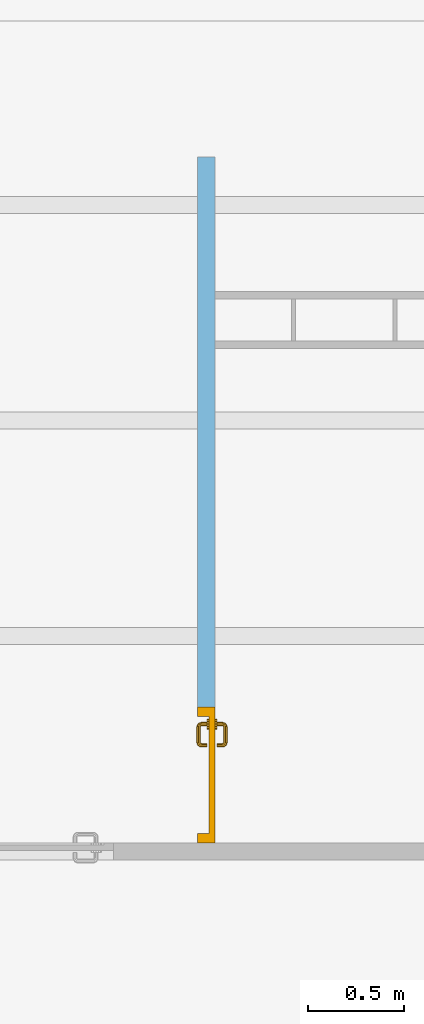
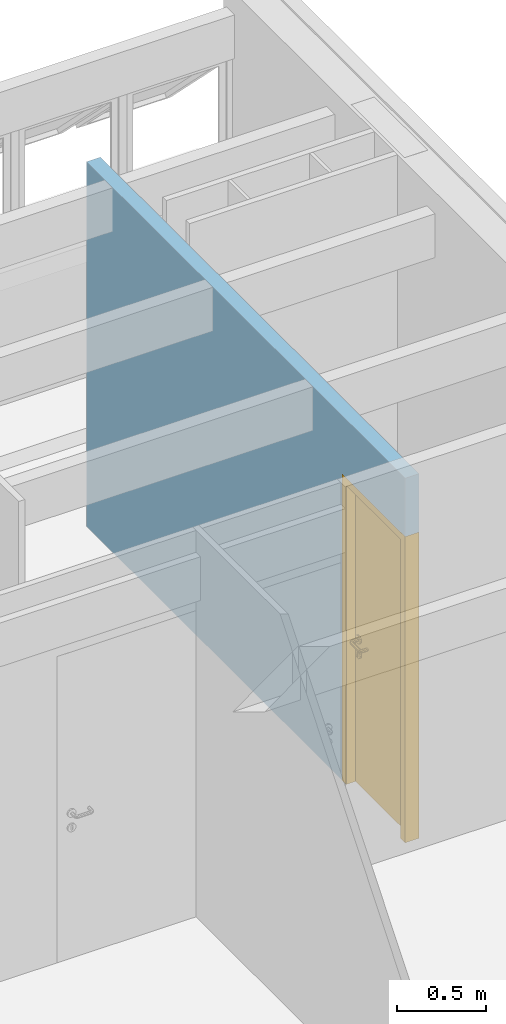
# One storey, part 7 of 22: 1 door, 1 opening, plus 1 element that does not belong to this part.
"""IFC2X3 building model written with IfcOpenShell, lengths in millimetres."""

import ifcopenshell
import ifcopenshell.guid

model = None  # the IFC model being written
_history = None  # IfcOwnerHistory: only IFC2X3 demands one
_inside = {}  # id of a spatial element -> (the spatial element, [elements in it])
_under = {}  # id of a project, library or spatial element -> (it, [spatial elements below it])
_declared = {}  # id of a project -> (the project, [libraries it declares])
_typed = {}  # id of a type object -> (the type object, [elements of that type])
_made_of = {}  # id of a material, layer set ... -> (it, [elements and type objects made of it])


def new_model(schema):
    """Start an empty IFC model of exactly this schema.

    Asked for "IFC4X3", IfcOpenShell would pick the latest addendum, in which some entities
    have other attributes; the version numbers below select the first issue.
    IFC2X3 requires an IfcOwnerHistory on every rooted entity: one is made here for all.
    """
    global model, _history
    if schema == "IFC4X3":
        model = ifcopenshell.file(schema_version=(4, 3, 0, 0))
    else:
        model = ifcopenshell.file(schema=schema)
    _inside.clear()
    _under.clear()
    _declared.clear()
    _typed.clear()
    _made_of.clear()
    _history = None
    if model.schema == "IFC2X3":
        org = make("IfcOrganization", Name="unknown")
        user = make(
            "IfcPersonAndOrganization",
            ThePerson=make("IfcPerson", FamilyName="unknown"),
            TheOrganization=org,
        )
        app = make(
            "IfcApplication",
            ApplicationDeveloper=org,
            Version="unknown",
            ApplicationFullName="unknown",
            ApplicationIdentifier="unknown",
        )
        _history = make(
            "IfcOwnerHistory",
            OwningUser=user,
            OwningApplication=app,
            ChangeAction="ADDED",
            CreationDate=0,
        )
    return model


def make(cls, **values):
    """One entity of the class cls with the attributes given. An attribute that is None is left unset."""
    return model.create_entity(
        cls, **{name: value for name, value in values.items() if value is not None}
    )


def rooted(cls, **values):
    """An entity with a GlobalId (a new one), such as an element, a storey or a relation."""
    return make(cls, GlobalId=ifcopenshell.guid.new(), OwnerHistory=_history, **values)


def si_unit(unit_type, name, prefix=None):
    """IfcSIUnit, for example si_unit("LENGTHUNIT", "METRE", prefix="MILLI")."""
    return make("IfcSIUnit", UnitType=unit_type, Prefix=prefix, Name=name)


def assignment(units):
    """IfcUnitAssignment: the units of a project."""
    return None if units is None else make("IfcUnitAssignment", Units=units)


def point(xyz):
    """IfcCartesianPoint."""
    return None if xyz is None else make("IfcCartesianPoint", Coordinates=xyz)


def direction(xyz):
    """IfcDirection."""
    return None if xyz is None else make("IfcDirection", DirectionRatios=xyz)


def frame(location, z_axis=None, x_axis=None):
    """IfcAxis2Placement3D, a coordinate frame: its origin and axes. An axis left out is left unset."""
    return make(
        "IfcAxis2Placement3D",
        Location=point(location),
        Axis=direction(z_axis),
        RefDirection=direction(x_axis),
    )


def frame_2d(location, x_axis=None):
    """IfcAxis2Placement2D, a coordinate frame in the plane: its origin and x axis."""
    return make(
        "IfcAxis2Placement2D", Location=point(location), RefDirection=direction(x_axis)
    )


def origin_with_axes():
    """The frame at (0, 0, 0) with the z axis (0, 0, 1) and the x axis (1, 0, 0) written out."""
    return frame((0.0, 0.0, 0.0), z_axis=(0.0, 0.0, 1.0), x_axis=(1.0, 0.0, 0.0))


def place(relative_to, where):
    """IfcLocalPlacement: puts the frame where relative to a parent placement (None: the world)."""
    return make(
        "IfcLocalPlacement", PlacementRelTo=relative_to, RelativePlacement=where
    )


def context(
    kind, dimensions, precision=None, world=None, true_north=None, identifier=None
):
    """IfcGeometricRepresentationContext, for example the 3D "Model" context."""
    return make(
        "IfcGeometricRepresentationContext",
        ContextIdentifier=identifier,
        ContextType=kind,
        CoordinateSpaceDimension=dimensions,
        Precision=precision,
        WorldCoordinateSystem=world,
        TrueNorth=true_north,
    )


def subcontext(parent, identifier, kind, view, scale=None):
    """IfcGeometricRepresentationSubContext, for example "Body" below "Model"."""
    return make(
        "IfcGeometricRepresentationSubContext",
        ContextIdentifier=identifier,
        ContextType=kind,
        ParentContext=parent,
        TargetScale=scale,
        TargetView=view,
    )


def project(units=None, contexts=None):
    """IfcProject with its units and contexts."""
    return rooted(
        "IfcProject",
        Name="project",
        RepresentationContexts=contexts,
        UnitsInContext=assignment(units),
    )


def spatial(cls, under=None, at=None, **own):
    """A site, building, storey or space (cls), placed at a placement, below another one or the project."""
    s = rooted(cls, ObjectPlacement=at, **own)
    if under is not None:
        _under.setdefault(under.id(), (under, []))[1].append(s)
    return s


def polyline(points):
    """IfcPolyline through the points."""
    return make("IfcPolyline", Points=[point(p) for p in points])


def profile(cls, at=None, kind="AREA", **sizes):
    """A parametric profile (cls). Its sizes go by their IFC names, for example OverallWidth=200.0."""
    return make(cls, ProfileType=kind, Position=at, **sizes)


def rectangle(**sizes):
    """IfcRectangleProfileDef."""
    return profile("IfcRectangleProfileDef", **sizes)


def outline(outer, holes=None, kind="AREA"):
    """IfcArbitraryClosedProfileDef: a profile drawn as a closed curve; with holes, ...WithVoids."""
    if holes is None:
        return make("IfcArbitraryClosedProfileDef", ProfileType=kind, OuterCurve=outer)
    return make(
        "IfcArbitraryProfileDefWithVoids",
        ProfileType=kind,
        OuterCurve=outer,
        InnerCurves=holes,
    )


def extrude(swept, where, along, depth):
    """IfcExtrudedAreaSolid: the profile swept, set in the frame where, extruded along a direction by depth."""
    return make(
        "IfcExtrudedAreaSolid",
        SweptArea=swept,
        Position=where,
        ExtrudedDirection=direction(along),
        Depth=depth,
    )


def faces_of(points, faces, orient=None, outer=None):
    """IfcFace entities. A face is a list of loops; a loop is a list of indices into points, from 0.

    orient and outer hold one flag for each loop. By default every Orientation is true, the
    first loop of a face is its IfcFaceOuterBound and the others are IfcFaceBound.
    """
    made = []
    for i, loops in enumerate(faces):
        bounds = []
        for j, loop in enumerate(loops):
            is_outer = j == 0 if outer is None else outer[i][j]
            bounds.append(
                make(
                    "IfcFaceOuterBound" if is_outer else "IfcFaceBound",
                    Bound=make("IfcPolyLoop", Polygon=[points[k] for k in loop]),
                    Orientation=True if orient is None else orient[i][j],
                )
            )
        made.append(make("IfcFace", Bounds=bounds))
    return made


def open_shell(faces, orient=None, outer=None):
    """The faces of one IfcOpenShell. surface_model builds it on its shared points."""
    return ("IfcOpenShell", faces, orient, outer)


def faceted_brep(points, faces, orient=None, outer=None, voids=None):
    """IfcFacetedBrep: a solid bounded by flat faces; with voids (closed shells), ...WithVoids."""
    shared = [point(p) for p in points]
    hull = make("IfcClosedShell", CfsFaces=faces_of(shared, faces, orient, outer))
    if voids is None:
        return make("IfcFacetedBrep", Outer=hull)
    return make(
        "IfcFacetedBrepWithVoids",
        Outer=hull,
        Voids=[
            make(cls, CfsFaces=faces_of(shared, fs, o, b)) for cls, fs, o, b in voids
        ],
    )


def surface_model(cls, points, shells):
    """IfcFaceBasedSurfaceModel or IfcShellBasedSurfaceModel (cls): surfaces that need not close."""
    shared = [point(p) for p in points]
    made = [make(c, CfsFaces=faces_of(shared, fs, o, b)) for c, fs, o, b in shells]
    if cls == "IfcFaceBasedSurfaceModel":
        return make(cls, FbsmFaces=made)
    return make(cls, SbsmBoundary=made)


def shape(context_of_items, identifier, shape_type, items):
    """IfcShapeRepresentation: the items that make up one representation, for example the "Body"."""
    return make(
        "IfcShapeRepresentation",
        ContextOfItems=context_of_items,
        RepresentationIdentifier=identifier,
        RepresentationType=shape_type,
        Items=items,
    )


def source(mapping_origin, context_of_items, identifier, shape_type, items):
    """IfcRepresentationMap: a shape defined once, which mapped items show again and again."""
    return make(
        "IfcRepresentationMap",
        MappingOrigin=mapping_origin,
        MappedRepresentation=shape(context_of_items, identifier, shape_type, items),
    )


def transform(
    local_origin,
    x_axis=None,
    y_axis=None,
    z_axis=None,
    scale=None,
    scale2=None,
    scale3=None,
    uniform=True,
):
    """IfcCartesianTransformationOperator3D, or its non-uniform kind. x_axis, y_axis, z_axis: its Axis1, 2, 3."""
    if uniform:
        return make(
            "IfcCartesianTransformationOperator3D",
            Axis1=direction(x_axis),
            Axis2=direction(y_axis),
            LocalOrigin=point(local_origin),
            Scale=scale,
            Axis3=direction(z_axis),
        )
    return make(
        "IfcCartesianTransformationOperator3DnonUniform",
        Axis1=direction(x_axis),
        Axis2=direction(y_axis),
        LocalOrigin=point(local_origin),
        Scale=scale,
        Axis3=direction(z_axis),
        Scale2=scale2,
        Scale3=scale3,
    )


def mapped(mapping_source, mapping_target):
    """IfcMappedItem: shows the shape of a source again, moved by a transform."""
    return make(
        "IfcMappedItem", MappingSource=mapping_source, MappingTarget=mapping_target
    )


def material(Name=None, Category=None):
    """IfcMaterial."""
    return make("IfcMaterial", Name=Name, Category=Category)


def layer(
    of_material, thickness, ventilated=None, Name=None, Category=None, Priority=None
):
    """IfcMaterialLayer: one layer of a wall or slab, of a material (None: an air gap)."""
    return make(
        "IfcMaterialLayer",
        Material=of_material,
        LayerThickness=thickness,
        IsVentilated=ventilated,
        Name=Name,
        Category=Category,
        Priority=Priority,
    )


def layer_set(layers, Name=None):
    """IfcMaterialLayerSet."""
    return make("IfcMaterialLayerSet", MaterialLayers=layers, LayerSetName=Name)


def layer_usage(for_layer_set, set_direction, sense, offset, extent=None):
    """IfcMaterialLayerSetUsage: how a layer set lies in its element."""
    return make(
        "IfcMaterialLayerSetUsage",
        ForLayerSet=for_layer_set,
        LayerSetDirection=set_direction,
        DirectionSense=sense,
        OffsetFromReferenceLine=offset,
        ReferenceExtent=extent,
    )


def made_of(thing, what):
    """Note that an element or type object is made of a material, layer set ...; save() writes the relation."""
    if what is not None:
        _made_of.setdefault(what.id(), (what, []))[1].append(thing)
    return thing


def type_object(cls, material=None, **own):
    """A type object (cls), such as IfcWallType, which elements share."""
    return made_of(rooted(cls, **own), material)


def type_shapes(of_type, sources):
    """Give a type object the sources (RepresentationMaps) that its elements show as mapped items."""
    of_type.RepresentationMaps = sources


def element(
    cls,
    number,
    at=None,
    inside=None,
    cuts=None,
    type_object=None,
    material=None,
    context=None,
    identifier="Body",
    shape_type=None,
    held_by="IfcProductDefinitionShape",
    body=None,
    shapes=None,
    **own,
):
    """One element of the class cls, such as IfcWall. Its Tag is "e" and its number.

    at: its placement. inside: the storey or other place that contains it. cuts: it is an
    opening in that element (IfcRelVoidsElement). A single representation is given by context,
    identifier, shape_type and body (its items); several are given by shapes. held_by: the class
    of the entity that holds the representations. save() writes the other relations.
    """
    e = rooted(cls, Tag="e%d" % number, ObjectPlacement=at, **own)
    if body is not None:
        shapes = [shape(context, identifier, shape_type, body)]
    if shapes is not None:
        e.Representation = make(held_by, Representations=shapes)
    if inside is not None:
        _inside.setdefault(inside.id(), (inside, []))[1].append(e)
    if cuts is not None:
        rooted(
            "IfcRelVoidsElement", RelatingBuildingElement=cuts, RelatedOpeningElement=e
        )
    if type_object is not None:
        _typed.setdefault(type_object.id(), (type_object, []))[1].append(e)
    return made_of(e, material)


def fill(opening, filler):
    """IfcRelFillsElement: the door or window that sits in an opening."""
    return rooted(
        "IfcRelFillsElement",
        RelatingOpeningElement=opening,
        RelatedBuildingElement=filler,
    )


def aggregate(whole, parts):
    """IfcRelAggregates: a whole, such as a stair, and the parts it consists of."""
    return rooted("IfcRelAggregates", RelatingObject=whole, RelatedObjects=parts)


def save(model, path):
    """Write the relations noted so far, then the file.

    IfcRelAggregates (storeys below a building ...), IfcRelContainedInSpatialStructure (elements
    in a storey), IfcRelDefinesByType, IfcRelAssociatesMaterial and IfcRelDeclares: one each for
    every whole, place, type object, material and project.
    """
    for whole, parts in _under.values():
        aggregate(whole, parts)
    for where, things in _inside.values():
        rooted(
            "IfcRelContainedInSpatialStructure",
            RelatedElements=things,
            RelatingStructure=where,
        )
    for kind, things in _typed.values():
        rooted("IfcRelDefinesByType", RelatedObjects=things, RelatingType=kind)
    for what, things in _made_of.values():
        rooted("IfcRelAssociatesMaterial", RelatedObjects=things, RelatingMaterial=what)
    for by, libraries in _declared.values():
        rooted("IfcRelDeclares", RelatingContext=by, RelatedDefinitions=libraries)
    model.write(path)


model = new_model("IFC2X3")

# Units and contexts
model_context = context("Model", 3, precision=1e-05, world=origin_with_axes(), true_north=direction((0.0, 1.0)))
body_context = subcontext(model_context, "Body", "Model", "MODEL_VIEW")
ifc_project = project(units=[si_unit("LENGTHUNIT", "METRE", prefix="MILLI"), si_unit("AREAUNIT", "SQUARE_METRE"), si_unit("VOLUMEUNIT", "CUBIC_METRE"), si_unit("PLANEANGLEUNIT", "RADIAN"), si_unit("TIMEUNIT", "SECOND"), si_unit("MASSUNIT", "GRAM")], contexts=[model_context])

# Site, building, storey
site_placement = place(None, origin_with_axes())
site = spatial("IfcSite", under=ifc_project, at=site_placement, Name="Site", CompositionType="ELEMENT")
building_placement = place(site_placement, origin_with_axes())
building = spatial("IfcBuilding", under=site, at=building_placement, Name="Construção", CompositionType="COMPLEX")
storey_placement = place(building_placement, frame((0.0, 0.0, 2650.0), z_axis=(0.0, 0.0, 1.0), x_axis=(1.0, 0.0, 0.0)))
storey = spatial("IfcBuildingStorey", under=building, at=storey_placement, Name="Segundo Pavimento", CompositionType="COMPLEX", Elevation=2650.0)

# Wall, opening, door
ifc_material = material(Name="GENÉRICO - VEDAÇÃO EXTERNA")
ifc_layer = layer(ifc_material, 90.0)
ifc_layer_set = layer_set([ifc_layer], Name="GENÉRICO - VEDAÇÃO EXTERNA 90")
ifc_layer_usage = layer_usage(ifc_layer_set, "AXIS2", "POSITIVE", 0.0)
wall_type = type_object("IfcWallType", Name="GENÉRICO - VEDAÇÃO EXTERNA 90", PredefinedType="STANDARD", material=ifc_layer_set)
wall_placement = place(storey_placement, frame((13040.0, 7345.2195667, 0.0), z_axis=(0.0, 0.0, 1.0), x_axis=(0.0, -1.0, 0.0)))
wall = element("IfcWallStandardCase", 1, at=wall_placement, inside=storey, type_object=wall_type, material=ifc_layer_usage, Name="APTO6-PAREDE-012", context=body_context, shape_type="SweptSolid", body=[
    extrude(rectangle(XDim=3580.0, YDim=90.0, at=frame_2d((0.0, 0.0), x_axis=(-1.0, 0.0))), frame((1790.0, 45.0, 0.0), z_axis=(0.0, 0.0, 1.0), x_axis=(1.0, 0.0, 0.0)), (0.0, 0.0, 1.0), 2500.0),
])
opening_placement = place(wall_placement, frame((3580.0, 90.0, 0.0), z_axis=(0.0, 0.0, 1.0), x_axis=(-1.0, 0.0, 0.0)))
opening = element("IfcOpeningElement", 2, at=opening_placement, cuts=wall, ObjectType="Opening", context=body_context, shape_type="SweptSolid", body=[
    extrude(outline(polyline([(-355.0, -1050.0), (-355.0, 1050.0), (355.0, 1050.0), (355.0, -1050.0), (-355.0, -1050.0)])), frame((355.0, 0.0, 1050.0), z_axis=(0.0, 1.0, 0.0), x_axis=(1.0, 0.0, 0.0)), (0.0, 0.0, 1.0), 270.0),
])
door_style = type_object("IfcDoorStyle", Name="Porta 25", ConstructionType="NOTDEFINED", OperationType="SINGLE_SWING_RIGHT", ParameterTakesPrecedence=False, Sizeable=False)
shared_shape_1 = source(origin_with_axes(), body_context, "Body", "SolidModel", [
    extrude(outline(polyline([(-10.0, -10.0), (-20.0, -10.0), (-20.0, 50.0), (30.0, 50.0), (30.0, -40.0), (-10.0, -40.0), (-10.0, -10.0)])), frame((680.0, 0.0, -40.0), z_axis=(0.0, 1.0, 0.0), x_axis=(1.0, 0.0, 0.0)), (0.0, 0.0, 1.0), 2050.0),
])
shared_shape_2 = source(origin_with_axes(), body_context, "Body", "SolidModel", [
    extrude(outline(polyline([(10.0, -10.0), (10.0, -40.0), (-30.0, -40.0), (-30.0, 50.0), (20.0, 50.0), (20.0, -10.0), (10.0, -10.0)])), frame((30.0, 0.0, -40.0), z_axis=(0.0, 1.0, 0.0), x_axis=(1.0, 0.0, 0.0)), (0.0, 0.0, 1.0), 2050.0),
])
shared_shape_3 = source(origin_with_axes(), body_context, "Body", "SolidModel", [
    faceted_brep([(39.99999999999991, 2050.0, -29.99999999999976), (670.0, 2050.0, -30.0), (670.0, 2060.0, -30.0), (39.99999999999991, 2060.0, -29.99999999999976), (710.0, 2050.0, -90.0), (0.0, 2050.0, -90.0), (0.0, 2100.0, -90.0), (710.0, 2100.0, -90.0), (670.0, 2060.0, 0.0), (39.99999999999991, 2060.0, 0.0), (39.99999999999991, 2050.0, 0.0), (0.0, 2100.0, 0.0), (0.0, 2050.0, 0.0), (710.0, 2100.0, 0.0), (710.0, 2050.0, 0.0), (670.0, 2050.0, 0.0)], [[[0, 1, 2, 3]], [[4, 5, 6, 7]], [[8, 9, 3, 2]], [[9, 10, 0, 3]], [[11, 6, 5, 12]], [[13, 7, 6, 11]], [[14, 4, 7, 13]], [[1, 0, 10, 12, 5, 4, 14, 15]], [[15, 8, 2, 1]], [[8, 15, 14, 13, 11, 12, 10, 9]]]),
])
shared_shape_4 = source(origin_with_axes(), body_context, "Body", "SolidModel", [
    extrude(outline(polyline([(0.0, 27.00000000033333), (13.49999999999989, 23.38268590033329), (23.38268590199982, 13.50000000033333), (26.99999999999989, 3.333298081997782e-10), (23.38268590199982, -13.49999999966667), (13.49999999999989, -23.38268590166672), (0.0, -26.99999999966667), (-13.50000000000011, -23.38268590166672), (-23.38268590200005, -13.49999999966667), (-27.0, 3.333298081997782e-10), (-23.38268590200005, 13.50000000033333), (-13.50000000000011, 23.38268590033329), (0.0, 27.00000000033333)])), frame((620.0, 999.9999999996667, -40.0), z_axis=(0.0, 0.0, 1.0), x_axis=(1.0, 0.0, 0.0)), (0.0, 0.0, 1.0), 10.0),
])
shared_shape_5 = source(origin_with_axes(), body_context, "Body", "SolidModel", [
    faceted_brep([(642.516660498, 913.0, -39.0), (646.0, 900.0, -39.0), (646.0, 900.0, -30.0), (642.516660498, 913.0, -30.0), (642.516660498, 887.0, -39.0), (642.516660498, 887.0, -30.0), (633.0, 922.516660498, -39.0), (633.0, 922.516660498, -30.0), (647.0, 900.0, -40.0), (647.0, 900.0, -30.0), (643.382685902, 886.5, -30.0), (643.382685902, 886.5, -40.0), (597.483339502, 913.0, -30.0), (607.0, 922.516660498, -30.0), (620.0, 926.0, -30.0), (633.0, 877.483339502, -30.0), (620.0, 874.0, -30.0), (607.0, 877.483339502, -30.0), (597.483339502, 887.0, -30.0), (594.0, 900.0, -30.0), (606.5, 923.382685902, -30.0), (596.617314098, 913.5, -30.0), (593.0, 900.0, -30.0), (596.617314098, 886.5, -30.0), (606.5, 876.617314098, -30.0), (620.0, 873.0, -30.0), (633.5, 876.617314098, -30.0), (643.382685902, 913.5, -30.0), (633.5, 923.382685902, -30.0), (620.0, 927.0, -30.0), (643.382685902, 913.5, -40.0), (633.5, 923.382685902, -40.0), (620.0, 926.0, -39.0), (633.0, 877.483339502, -39.0), (633.5, 876.617314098, -40.0), (607.0, 922.516660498, -39.0), (606.5, 876.617314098, -40.0), (596.617314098, 886.5, -40.0), (620.0, 873.0, -40.0), (620.0, 927.0, -40.0), (594.0, 900.0, -39.0), (597.483339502, 913.0, -39.0), (620.0, 882.5, -40.0), (620.0, 882.5, -39.0), (623.535533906, 883.964466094, -39.0), (623.535533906, 883.964466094, -40.0), (625.0, 887.5, -39.0), (625.0, 887.5, -40.0), (593.0, 900.0, -40.0), (620.0, 874.0, -39.0), (607.0, 877.483339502, -39.0), (597.483339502, 887.0, -39.0), (627.467830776, 909.692280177, -40.0), (625.0, 904.4, -40.0), (625.0, 904.4, -39.0), (627.467830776, 909.692280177, -39.0), (625.3751823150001, 915.143815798, -40.0), (626.720245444, 911.639806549, -40.0), (626.720245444, 911.639806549, -39.0), (625.3751823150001, 915.143815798, -39.0), (616.464466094, 883.964466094, -40.0), (616.464466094, 883.964466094, -39.0), (606.5, 923.382685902, -40.0), (596.617314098, 913.5, -40.0), (614.6248176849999, 915.143815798, -39.0), (620.0, 917.425445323, -39.0), (615.0, 887.5, -39.0), (615.0, 904.4, -39.0), (612.532169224, 909.692280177, -39.0), (613.279754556, 911.639806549, -39.0), (620.0, 917.425445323, -40.0), (614.6248176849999, 915.143815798, -40.0), (615.0, 887.5, -40.0), (612.532169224, 909.692280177, -40.0), (613.279754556, 911.639806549, -40.0), (615.0, 904.4, -40.0)], [[[0, 1, 2, 3]], [[1, 4, 5, 2]], [[6, 0, 3, 7]], [[8, 9, 10, 11]], [[12, 13, 14, 7, 3, 2, 5, 15, 16, 17, 18, 19], [20, 21, 22, 23, 24, 25, 26, 10, 9, 27, 28, 29]], [[30, 27, 9, 8]], [[31, 28, 27, 30]], [[32, 6, 7, 14]], [[4, 33, 15, 5]], [[11, 10, 26, 34]], [[35, 32, 14, 13]], [[36, 24, 23, 37]], [[38, 25, 24, 36]], [[34, 26, 25, 38]], [[39, 29, 28, 31]], [[40, 41, 12, 19]], [[42, 43, 44, 45]], [[45, 44, 46, 47]], [[37, 23, 22, 48]], [[33, 49, 16, 15]], [[49, 50, 17, 16]], [[51, 40, 19, 18]], [[50, 51, 18, 17]], [[52, 53, 54, 55]], [[54, 53, 47, 46]], [[41, 35, 13, 12]], [[56, 57, 52, 55, 58, 59]], [[60, 61, 43, 42]], [[62, 20, 29, 39]], [[63, 21, 20, 62]], [[40, 51, 50, 49, 33, 4, 1, 0, 6, 32, 35, 41], [64, 65, 59, 58, 55, 54, 46, 44, 43, 61, 66, 67, 68, 69]], [[70, 56, 59, 65]], [[71, 70, 65, 64]], [[48, 22, 21, 63]], [[72, 66, 61, 60]], [[73, 74, 71, 64, 69, 68]], [[75, 67, 66, 72]], [[75, 73, 68, 67]], [[36, 37, 48, 63, 62, 39, 31, 30, 8, 11, 34, 38], [73, 75, 72, 60, 42, 45, 47, 53, 52, 57, 56, 70, 71, 74]]], outer=[[True], [True], [True], [True], [False, True], [True], [True], [True], [True], [True], [True], [True], [True], [True], [True], [True], [True], [True], [True], [True], [True], [True], [True], [True], [True], [True], [True], [True], [True], [True], [True, False], [True], [True], [True], [True], [True], [True], [True], [True, False]]),
])
shared_shape_6 = source(origin_with_axes(), body_context, "Body", "SurfaceModel", [
    surface_model("IfcShellBasedSurfaceModel", [(517.071067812, 1007.07106781, -69.303560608), (510.0, 1010.0, -70.0), (510.0, 1010.0, -40.0), (517.071067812, 1007.07106781, -40.0), (520.0, 1000.0, -69.0150859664), (520.0, 1000.0, -40.0), (517.071067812, 992.928932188, -69.303560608), (517.071067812, 992.928932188, -40.0), (502.928932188, 1007.07106781, -70.696439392), (502.928932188, 1007.07106781, -40.0), (500.0, 1000.0, -40.0), (502.928932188, 992.928932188, -40.0), (510.0, 990.0, -40.0), (500.0, 1000.0, -70.9849140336), (510.0, 990.0, -70.0), (517.802607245, 992.928932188, -72.9812576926), (520.5616010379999, 1000.0, -71.83844504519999), (511.141807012, 1010.0, -75.74025148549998), (504.481006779, 1007.07106781, -78.49924527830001), (517.802607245, 1007.07106781, -72.9812576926), (514.393398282, 1010.0, -80.6066017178), (509.295442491, 1007.07106781, -85.70455750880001), (519.491354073, 1007.07106781, -75.5086459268), (522.018742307, 992.928932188, -77.19739275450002), (523.161554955, 1000.0, -74.43839896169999), (521.602996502, 1000.0, -73.39700349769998), (519.491354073, 992.928932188, -75.5086459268), (522.018742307, 1007.07106781, -77.19739275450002), (519.259748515, 1010.0, -83.8581929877), (501.722012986, 1000.0, -79.6420579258), (502.928932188, 992.928932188, -70.696439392), (525.984914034, 1000.0, -75.0), (525.696439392, 1007.07106781, -77.92893218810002), (511.141807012, 990.0, -75.74025148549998), (504.481006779, 992.928932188, -78.49924527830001), (514.393398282, 990.0, -80.6066017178), (509.295442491, 992.928932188, -85.70455750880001), (507.183800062, 1000.0, -87.8161999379), (516.500754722, 992.928932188, -90.51899322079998), (519.259748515, 990.0, -83.8581929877), (525.696439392, 992.928932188, -77.92893218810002), (515.357942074, 1000.0, -93.2779870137), (516.500754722, 1007.07106781, -90.51899322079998), (525.0, 990.0, -85.0), (604.303560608, 992.928932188, -77.92893218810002), (604.015085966, 1000.0, -75.0), (607.981257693, 992.928932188, -77.19739275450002), (606.838445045, 1000.0, -74.43839896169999), (604.303560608, 1007.07106781, -77.92893218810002), (607.981257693, 1007.07106781, -77.19739275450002), (608.397003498, 1000.0, -73.39700349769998), (610.508645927, 1007.07106781, -75.5086459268), (525.0, 1010.0, -85.0), (524.303560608, 1007.07106781, -92.07106781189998), (524.015085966, 1000.0, -95.0), (524.303560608, 992.928932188, -92.07106781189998), (605.0, 990.0, -85.0), (605.0, 1010.0, -85.0), (610.740251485, 1010.0, -83.8581929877), (605.696439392, 1007.07106781, -92.07106781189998), (615.606601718, 1010.0, -80.6066017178), (613.499245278, 1007.07106781, -90.51899322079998), (605.984914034, 1000.0, -95.0), (610.508645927, 992.928932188, -75.5086459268), (609.4383989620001, 1000.0, -71.83844504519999), (612.197392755, 1007.07106781, -72.9812576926), (610.0, 1000.0, -69.0150859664), (612.928932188, 1007.07106781, -69.303560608), (620.0, 1010.0, -70.0), (618.8581929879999, 1010.0, -75.74025148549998), (615.606601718, 990.0, -80.6066017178), (610.740251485, 990.0, -83.8581929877), (612.197392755, 992.928932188, -72.9812576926), (605.696439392, 992.928932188, -92.07106781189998), (620.704557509, 1007.07106781, -85.70455750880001), (614.642057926, 1000.0, -93.2779870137), (613.499245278, 992.928932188, -90.51899322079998), (625.5189932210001, 1007.07106781, -78.49924527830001), (610.0, 1000.0, -40.0), (612.928932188, 1007.07106781, -40.0), (622.816199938, 1000.0, -87.8161999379), (620.704557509, 992.928932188, -85.70455750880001), (625.5189932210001, 992.928932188, -78.49924527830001), (618.8581929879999, 990.0, -75.74025148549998), (628.277987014, 1000.0, -79.6420579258), (620.0, 1010.0, -40.0), (627.071067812, 1007.07106781, -70.696439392), (627.071067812, 1007.07106781, -40.0), (630.0, 1000.0, -70.9849140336), (612.928932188, 992.928932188, -69.303560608), (620.0, 990.0, -70.0), (612.928932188, 992.928932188, -40.0), (627.071067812, 992.928932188, -70.696439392), (620.0, 990.0, -40.0), (630.0, 1000.0, -40.0), (627.071067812, 992.928932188, -40.0)], [open_shell([[[0, 1, 2, 3]], [[4, 0, 3, 5]], [[6, 4, 5, 7]], [[1, 8, 9, 2]], [[10, 11, 12, 7, 5, 3, 2, 9]], [[8, 13, 10, 9]], [[14, 6, 7, 12]], [[15, 16, 4, 6]], [[17, 18, 8, 1]], [[19, 17, 1, 0]], [[20, 21, 18, 17]], [[16, 19, 0, 4]], [[22, 20, 17, 19]], [[23, 24, 25, 26]], [[25, 22, 19, 16]], [[27, 28, 20, 22]], [[18, 29, 13, 8]], [[13, 30, 11, 10]], [[26, 25, 16, 15]], [[24, 27, 22, 25]], [[31, 32, 27, 24]], [[30, 14, 12, 11]], [[33, 15, 6, 14]], [[34, 33, 14, 30]], [[35, 26, 15, 33]], [[29, 34, 30, 13]], [[36, 35, 33, 34]], [[37, 36, 34, 29]], [[38, 39, 35, 36]], [[39, 23, 26, 35]], [[40, 31, 24, 23]], [[21, 37, 29, 18]], [[41, 38, 36, 37]], [[42, 41, 37, 21]], [[43, 40, 23, 39]], [[44, 45, 31, 40]], [[46, 47, 45, 44]], [[45, 48, 32, 31]], [[47, 49, 48, 45]], [[50, 51, 49, 47]], [[32, 52, 28, 27]], [[28, 42, 21, 20]], [[53, 54, 41, 42]], [[55, 43, 39, 38]], [[56, 44, 40, 43]], [[48, 57, 52, 32]], [[52, 53, 42, 28]], [[49, 58, 57, 48]], [[57, 59, 53, 52]], [[51, 60, 58, 49]], [[58, 61, 59, 57]], [[59, 62, 54, 53]], [[54, 55, 38, 41]], [[63, 50, 47, 46]], [[64, 65, 51, 50]], [[66, 67, 65, 64]], [[67, 68, 69, 65]], [[70, 63, 46, 71]], [[72, 64, 50, 63]], [[73, 56, 43, 55]], [[71, 46, 44, 56]], [[65, 69, 60, 51]], [[60, 74, 61, 58]], [[61, 75, 62, 59]], [[62, 73, 55, 54]], [[76, 71, 56, 73]], [[69, 77, 74, 60]], [[78, 79, 67, 66]], [[74, 80, 75, 61]], [[75, 76, 73, 62]], [[81, 70, 71, 76]], [[80, 81, 76, 75]], [[82, 83, 70, 81]], [[84, 82, 81, 80]], [[79, 85, 68, 67]], [[68, 86, 77, 69]], [[77, 84, 80, 74]], [[85, 87, 86, 68]], [[86, 88, 84, 77]], [[83, 72, 63, 70]], [[89, 66, 64, 72]], [[90, 89, 72, 83]], [[91, 78, 66, 89]], [[92, 90, 83, 82]], [[93, 91, 89, 90]], [[87, 94, 88, 86]], [[88, 92, 82, 84]], [[95, 93, 90, 92]], [[94, 95, 92, 88]]])]),
])
shared_shape_7 = source(origin_with_axes(), body_context, "Body", "SolidModel", [
    extrude(outline(polyline([(0.0, 27.00000000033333), (13.49999999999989, 23.38268590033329), (23.38268590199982, 13.50000000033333), (26.99999999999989, 3.333298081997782e-10), (23.38268590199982, -13.49999999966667), (13.49999999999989, -23.38268590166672), (0.0, -26.99999999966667), (-13.50000000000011, -23.38268590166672), (-23.38268590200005, -13.49999999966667), (-27.0, 3.333298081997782e-10), (-23.38268590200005, 13.50000000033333), (-13.50000000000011, 23.38268590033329), (0.0, 27.00000000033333)])), frame((620.0, 999.9999999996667, 0.0), z_axis=(0.0, 0.0, 1.0), x_axis=(1.0, 0.0, 0.0)), (0.0, 0.0, 1.0), 10.0),
])
shared_shape_8 = source(origin_with_axes(), body_context, "Body", "SolidModel", [
    faceted_brep([(643.382685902, 913.5, 0.0), (643.382685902, 913.5, 10.0), (647.0, 900.0, 10.0), (647.0, 900.0, 0.0), (643.382685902, 886.5, 10.0), (643.382685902, 886.5, 0.0), (633.5, 876.617314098, 10.0), (633.5, 876.617314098, 0.0), (646.0, 900.0, 9.0), (646.0, 900.0, 0.0), (642.516660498, 887.0, 0.0), (642.516660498, 887.0, 9.0), (633.0, 877.483339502, 0.0), (633.0, 877.483339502, 9.0), (633.5, 923.382685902, 0.0), (633.5, 923.382685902, 10.0), (642.516660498, 913.0, 9.0), (642.516660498, 913.0, 0.0), (620.0, 927.0, 0.0), (620.0, 927.0, 10.0), (633.0, 922.516660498, 9.0), (633.0, 922.516660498, 0.0), (620.0, 874.0, 0.0), (620.0, 874.0, 9.0), (606.5, 876.617314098, 0.0), (596.617314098, 886.5, 0.0), (593.0, 900.0, 0.0), (596.617314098, 913.5, 0.0), (606.5, 923.382685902, 0.0), (620.0, 873.0, 0.0), (607.0, 922.516660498, 0.0), (597.483339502, 913.0, 0.0), (594.0, 900.0, 0.0), (597.483339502, 887.0, 0.0), (607.0, 877.483339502, 0.0), (620.0, 926.0, 0.0), (620.0, 873.0, 10.0), (606.5, 923.382685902, 10.0), (627.467830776, 909.692280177, 9.0), (625.0, 904.4, 9.0), (625.0, 904.4, 10.0), (627.467830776, 909.692280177, 10.0), (625.3751823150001, 915.143815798, 9.0), (626.720245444, 911.639806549, 9.0), (626.720245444, 911.639806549, 10.0), (625.3751823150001, 915.143815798, 10.0), (597.483339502, 887.0, 9.0), (594.0, 900.0, 9.0), (596.617314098, 886.5, 10.0), (593.0, 900.0, 10.0), (606.5, 876.617314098, 10.0), (625.0, 887.5, 9.0), (625.0, 887.5, 10.0), (623.535533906, 883.964466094, 9.0), (623.535533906, 883.964466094, 10.0), (596.617314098, 913.5, 10.0), (620.0, 926.0, 9.0), (607.0, 877.483339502, 9.0), (620.0, 882.5, 9.0), (620.0, 882.5, 10.0), (616.464466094, 883.964466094, 9.0), (616.464466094, 883.964466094, 10.0), (620.0, 917.425445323, 9.0), (620.0, 917.425445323, 10.0), (607.0, 922.516660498, 9.0), (597.483339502, 913.0, 9.0), (614.6248176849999, 915.143815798, 10.0), (615.0, 887.5, 10.0), (615.0, 904.4, 10.0), (612.532169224, 909.692280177, 10.0), (613.279754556, 911.639806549, 10.0), (614.6248176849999, 915.143815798, 9.0), (615.0, 887.5, 9.0), (612.532169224, 909.692280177, 9.0), (613.279754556, 911.639806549, 9.0), (615.0, 904.4, 9.0)], [[[0, 1, 2, 3]], [[3, 2, 4, 5]], [[5, 4, 6, 7]], [[8, 9, 10, 11]], [[11, 10, 12, 13]], [[14, 15, 1, 0]], [[16, 17, 9, 8]], [[18, 19, 15, 14]], [[20, 21, 17, 16]], [[13, 12, 22, 23]], [[24, 25, 26, 27, 28, 18, 14, 0, 3, 5, 7, 29], [30, 31, 32, 33, 34, 22, 12, 10, 9, 17, 21, 35]], [[7, 6, 36, 29]], [[28, 37, 19, 18]], [[38, 39, 40, 41]], [[42, 43, 38, 41, 44, 45]], [[46, 33, 32, 47]], [[25, 48, 49, 26]], [[29, 36, 50, 24]], [[24, 50, 48, 25]], [[40, 39, 51, 52]], [[53, 54, 52, 51]], [[26, 49, 55, 27]], [[27, 55, 37, 28]], [[56, 35, 21, 20]], [[57, 34, 33, 46]], [[58, 59, 54, 53]], [[23, 22, 34, 57]], [[60, 61, 59, 58]], [[62, 42, 45, 63]], [[64, 30, 35, 56]], [[47, 32, 31, 65]], [[19, 37, 55, 49, 48, 50, 36, 6, 4, 2, 1, 15], [66, 63, 45, 44, 41, 40, 52, 54, 59, 61, 67, 68, 69, 70]], [[65, 31, 30, 64]], [[71, 62, 63, 66]], [[72, 67, 61, 60]], [[73, 74, 71, 66, 70, 69]], [[75, 68, 67, 72]], [[75, 73, 69, 68]], [[65, 64, 56, 20, 16, 8, 11, 13, 23, 57, 46, 47], [73, 75, 72, 60, 58, 53, 51, 39, 38, 43, 42, 62, 71, 74]]]),
])
shared_shape_9 = source(origin_with_axes(), body_context, "Body", "SurfaceModel", [
    surface_model("IfcShellBasedSurfaceModel", [(517.802607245, 1007.07106781, 42.9812576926), (517.071067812, 1007.07106781, 39.303560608), (510.0, 1010.0, 40.0), (511.141807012, 1010.0, 45.7402514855), (517.802607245, 992.928932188, 42.9812576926), (517.071067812, 992.928932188, 39.303560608), (520.0, 1000.0, 39.0150859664), (520.5616010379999, 1000.0, 41.8384450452), (521.602996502, 1000.0, 43.3970034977), (519.491354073, 1007.07106781, 45.5086459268), (510.0, 990.0, 40.0), (510.0, 990.0, 10.0), (517.071067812, 992.928932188, 10.0), (520.0, 1000.0, 10.0), (517.071067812, 1007.07106781, 10.0), (510.0, 1010.0, 10.0), (502.928932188, 1007.07106781, 10.0), (502.928932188, 1007.07106781, 40.696439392), (519.491354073, 992.928932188, 45.5086459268), (511.141807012, 990.0, 45.7402514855), (525.696439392, 1007.07106781, 47.9289321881), (522.018742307, 1007.07106781, 47.1973927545), (519.259748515, 1010.0, 53.8581929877), (525.0, 1010.0, 55.0), (523.161554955, 1000.0, 44.4383989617), (519.259748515, 990.0, 53.8581929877), (514.393398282, 990.0, 50.6066017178), (522.018742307, 992.928932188, 47.1973927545), (516.500754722, 992.928932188, 60.5189932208), (509.295442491, 992.928932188, 55.7045575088), (525.984914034, 1000.0, 45.0), (525.0, 990.0, 55.0), (525.696439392, 992.928932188, 47.9289321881), (604.015085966, 1000.0, 45.0), (604.303560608, 1007.07106781, 47.9289321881), (502.928932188, 992.928932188, 40.696439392), (502.928932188, 992.928932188, 10.0), (500.0, 1000.0, 10.0), (504.481006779, 992.928932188, 48.4992452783), (500.0, 1000.0, 40.9849140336), (501.722012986, 1000.0, 49.6420579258), (507.183800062, 1000.0, 57.8161999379), (504.481006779, 1007.07106781, 48.4992452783), (514.393398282, 1010.0, 50.6066017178), (509.295442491, 1007.07106781, 55.7045575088), (516.500754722, 1007.07106781, 60.5189932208), (604.303560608, 992.928932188, 47.9289321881), (515.357942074, 1000.0, 63.2779870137), (524.303560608, 992.928932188, 62.0710678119), (607.981257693, 992.928932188, 47.1973927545), (606.838445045, 1000.0, 44.4383989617), (605.0, 990.0, 55.0), (610.740251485, 990.0, 53.8581929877), (607.981257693, 1007.07106781, 47.1973927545), (605.0, 1010.0, 55.0), (610.740251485, 1010.0, 53.8581929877), (605.696439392, 992.928932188, 62.0710678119), (524.015085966, 1000.0, 65.0), (608.397003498, 1000.0, 43.3970034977), (610.508645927, 1007.07106781, 45.5086459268), (610.508645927, 992.928932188, 45.5086459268), (524.303560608, 1007.07106781, 62.0710678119), (605.696439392, 1007.07106781, 62.0710678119), (605.984914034, 1000.0, 65.0), (613.499245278, 1007.07106781, 60.5189932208), (615.606601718, 1010.0, 50.6066017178), (620.704557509, 1007.07106781, 55.7045575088), (613.499245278, 992.928932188, 60.5189932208), (614.642057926, 1000.0, 63.2779870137), (612.928932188, 992.928932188, 10.0), (612.928932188, 992.928932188, 39.303560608), (610.0, 1000.0, 39.0150859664), (610.0, 1000.0, 10.0), (612.928932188, 1007.07106781, 39.303560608), (612.928932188, 1007.07106781, 10.0), (609.4383989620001, 1000.0, 41.8384450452), (612.197392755, 1007.07106781, 42.9812576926), (618.8581929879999, 1010.0, 45.7402514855), (625.5189932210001, 1007.07106781, 48.4992452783), (620.0, 1010.0, 40.0), (627.071067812, 1007.07106781, 40.696439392), (620.0, 1010.0, 10.0), (612.197392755, 992.928932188, 42.9812576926), (615.606601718, 990.0, 50.6066017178), (620.704557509, 992.928932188, 55.7045575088), (622.816199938, 1000.0, 57.8161999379), (628.277987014, 1000.0, 49.6420579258), (618.8581929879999, 990.0, 45.7402514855), (620.0, 990.0, 40.0), (625.5189932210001, 992.928932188, 48.4992452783), (620.0, 990.0, 10.0), (627.071067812, 1007.07106781, 10.0), (627.071067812, 992.928932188, 40.696439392), (630.0, 1000.0, 40.9849140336), (627.071067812, 992.928932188, 10.0), (630.0, 1000.0, 10.0)], [open_shell([[[0, 1, 2, 3]], [[4, 5, 6, 7]], [[7, 6, 1, 0]], [[8, 7, 0, 9]], [[10, 11, 12, 5]], [[5, 12, 13, 6]], [[6, 13, 14, 1]], [[1, 14, 15, 2]], [[2, 15, 16, 17]], [[18, 4, 7, 8]], [[19, 10, 5, 4]], [[20, 21, 22, 23]], [[24, 8, 9, 21]], [[25, 26, 18, 27]], [[28, 29, 26, 25]], [[26, 19, 4, 18]], [[30, 24, 21, 20]], [[27, 18, 8, 24]], [[31, 25, 27, 32]], [[33, 30, 20, 34]], [[32, 27, 24, 30]], [[35, 36, 11, 10]], [[37, 16, 15, 14, 13, 12, 11, 36]], [[38, 35, 10, 19]], [[39, 37, 36, 35]], [[29, 38, 19, 26]], [[40, 39, 35, 38]], [[17, 16, 37, 39]], [[41, 40, 38, 29]], [[42, 17, 39, 40]], [[3, 2, 17, 42]], [[9, 0, 3, 43]], [[43, 3, 42, 44]], [[21, 9, 43, 22]], [[44, 42, 40, 41]], [[22, 43, 44, 45]], [[46, 32, 30, 33]], [[47, 41, 29, 28]], [[48, 28, 25, 31]], [[49, 46, 33, 50]], [[51, 31, 32, 46]], [[52, 51, 46, 49]], [[53, 34, 54, 55]], [[56, 48, 31, 51]], [[57, 47, 28, 48]], [[45, 44, 41, 47]], [[50, 33, 34, 53]], [[58, 50, 53, 59]], [[60, 49, 50, 58]], [[23, 22, 45, 61]], [[34, 20, 23, 54]], [[61, 45, 47, 57]], [[54, 23, 61, 62]], [[62, 61, 57, 63]], [[55, 54, 62, 64]], [[65, 55, 64, 66]], [[67, 56, 51, 52]], [[63, 57, 48, 56]], [[64, 62, 63, 68]], [[69, 70, 71, 72]], [[59, 53, 55, 65]], [[72, 71, 73, 74]], [[75, 58, 59, 76]], [[76, 59, 65, 77]], [[71, 75, 76, 73]], [[77, 65, 66, 78]], [[73, 76, 77, 79]], [[79, 77, 78, 80]], [[74, 73, 79, 81]], [[82, 60, 58, 75]], [[83, 52, 49, 60]], [[84, 67, 52, 83]], [[68, 63, 56, 67]], [[66, 64, 68, 85]], [[85, 68, 67, 84]], [[78, 66, 85, 86]], [[70, 82, 75, 71]], [[87, 83, 60, 82]], [[88, 87, 82, 70]], [[89, 84, 83, 87]], [[90, 88, 70, 69]], [[81, 79, 80, 91]], [[92, 89, 87, 88]], [[86, 85, 84, 89]], [[80, 78, 86, 93]], [[94, 92, 88, 90]], [[93, 86, 89, 92]], [[91, 80, 93, 95]], [[95, 93, 92, 94]]])]),
])
shared_shape_10 = source(origin_with_axes(), body_context, "Body", "SolidModel", [
    extrude(rectangle(XDim=2060.0, YDim=630.0, at=frame_2d((0.0, 0.0), x_axis=(0.0, 1.0))), frame((355.0, 1030.0, -30.0), z_axis=(0.0, 0.0, 1.0), x_axis=(1.0, 0.0, 0.0)), (0.0, 0.0, 1.0), 30.0),
])
shared_shape_11 = source(origin_with_axes(), body_context, "Body", "MappedRepresentation", [
    mapped(shared_shape_1, transform((0.0, 0.0, 0.0))),
    mapped(shared_shape_2, transform((0.0, 0.0, 0.0))),
    mapped(shared_shape_3, transform((0.0, 0.0, 0.0))),
    mapped(shared_shape_4, transform((0.0, 0.0, 0.0))),
    mapped(shared_shape_5, transform((0.0, 0.0, 0.0))),
    mapped(shared_shape_6, transform((0.0, 0.0, 0.0))),
    mapped(shared_shape_7, transform((0.0, 0.0, 0.0))),
    mapped(shared_shape_8, transform((0.0, 0.0, 0.0))),
    mapped(shared_shape_9, transform((0.0, 0.0, 0.0))),
    mapped(shared_shape_10, transform((0.0, 0.0, 0.0))),
])
type_shapes(door_style, [shared_shape_11])
door_placement = place(opening_placement, origin_with_axes())
door = element("IfcDoor", 3, at=door_placement, inside=storey, type_object=door_style, Name="APTO6-PORTA-003", OverallHeight=2100.0, OverallWidth=710.0, context=body_context, shape_type="MappedRepresentation", body=[
    mapped(shared_shape_11, transform((0.0, 0.0, 0.0), x_axis=(1.0, 0.0, 0.0), y_axis=(0.0, 0.0, 1.0), z_axis=(0.0, -1.0, 0.0), scale=1.0)),
])
fill(opening, door)

save(model, "model.ifc")
